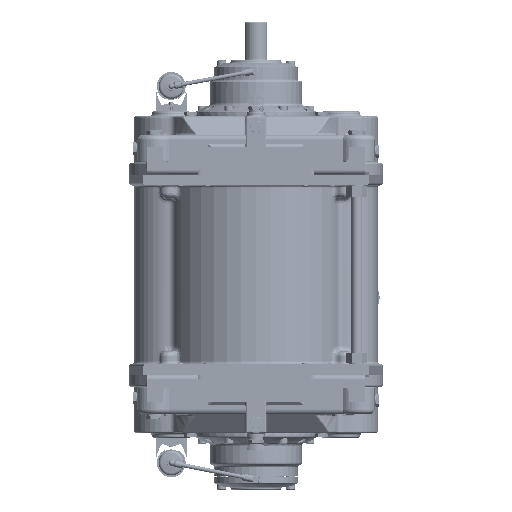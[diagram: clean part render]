
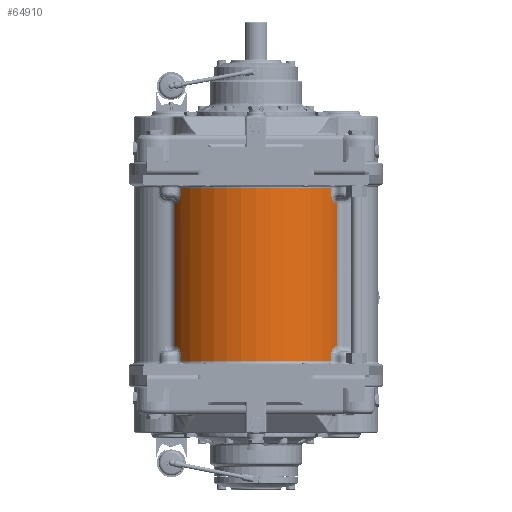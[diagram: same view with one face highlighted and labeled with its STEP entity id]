
A CAD part, front view. The second image highlights one B-rep face of the part: STEP entity #64910.
In plain terms, the highlighted cylindrical face has radius 180.5 mm (diameter 361 mm), a partial arc.
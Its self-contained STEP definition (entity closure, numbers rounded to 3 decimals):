
#2713=B_SPLINE_CURVE_WITH_KNOTS('',3,(#95038,#95039,#95040,#95041,#95042,
#95043,#95044),.UNSPECIFIED.,.F.,.F.,(4,1,1,1,4),(-3.142,-2.244,
-1.347,-0.898,0.),
 .UNSPECIFIED.);
#2714=B_SPLINE_CURVE_WITH_KNOTS('',3,(#95074,#95075,#95076,#95077,#95078,
#95079,#95080),.UNSPECIFIED.,.F.,.F.,(4,1,1,1,4),(-3.142,-2.244,
-1.347,-0.898,0.),.UNSPECIFIED.);
#2715=B_SPLINE_CURVE_WITH_KNOTS('',3,(#95089,#95090,#95091,#95092,#95093,
#95094,#95095),.UNSPECIFIED.,.F.,.F.,(4,1,1,1,4),(-3.142,-2.693,
-1.796,-0.898,0.),
 .UNSPECIFIED.);
#2716=B_SPLINE_CURVE_WITH_KNOTS('',3,(#95100,#95101,#95102,#95103,#95104,
#95105,#95106),.UNSPECIFIED.,.F.,.F.,(4,1,1,1,4),(-3.142,-2.244,
-1.347,-0.898,0.),
 .UNSPECIFIED.);
#5870=FACE_OUTER_BOUND('',#9716,.T.);
#9716=EDGE_LOOP('',(#42596,#42597,#42598,#42599,#42600,#42601,#42602,#42603,
#42604,#42605,#42606,#42607,#42608,#42609,#42610,#42611));
#13847=LINE('',#94994,#18087);
#13850=LINE('',#95063,#18090);
#13852=LINE('',#95072,#18092);
#13853=LINE('',#95083,#18093);
#13854=LINE('',#95087,#18094);
#13855=LINE('',#95107,#18095);
#18087=VECTOR('',#76712,10.);
#18090=VECTOR('',#76731,10.);
#18092=VECTOR('',#76739,10.);
#18093=VECTOR('',#76742,10.);
#18094=VECTOR('',#76745,10.);
#18095=VECTOR('',#76750,10.);
#22457=CIRCLE('',#69169,180.5);
#22475=CIRCLE('',#69195,180.5);
#22476=CIRCLE('',#69196,180.5);
#22477=CIRCLE('',#69197,180.5);
#22478=CIRCLE('',#69198,180.5);
#22479=CIRCLE('',#69199,180.5);
#25774=VERTEX_POINT('',#94881);
#25775=VERTEX_POINT('',#94883);
#25780=VERTEX_POINT('',#94991);
#25781=VERTEX_POINT('',#94993);
#25788=VERTEX_POINT('',#95059);
#25790=VERTEX_POINT('',#95062);
#25792=VERTEX_POINT('',#95068);
#25793=VERTEX_POINT('',#95069);
#25794=VERTEX_POINT('',#95071);
#25795=VERTEX_POINT('',#95073);
#25796=VERTEX_POINT('',#95081);
#25797=VERTEX_POINT('',#95084);
#25798=VERTEX_POINT('',#95086);
#25799=VERTEX_POINT('',#95088);
#25800=VERTEX_POINT('',#95097);
#25801=VERTEX_POINT('',#95099);
#32185=EDGE_CURVE('',#25774,#25775,#22457,.T.);
#32200=EDGE_CURVE('',#25780,#25781,#13847,.T.);
#32202=EDGE_CURVE('',#25781,#25774,#2713,.T.);
#32210=EDGE_CURVE('',#25788,#25790,#13850,.T.);
#32213=EDGE_CURVE('',#25792,#25793,#22475,.T.);
#32214=EDGE_CURVE('',#25794,#25792,#13852,.T.);
#32215=EDGE_CURVE('',#25795,#25794,#2714,.T.);
#32216=EDGE_CURVE('',#25796,#25795,#22476,.T.);
#32217=EDGE_CURVE('',#25796,#25775,#13853,.T.);
#32218=EDGE_CURVE('',#25797,#25780,#22477,.T.);
#32219=EDGE_CURVE('',#25798,#25797,#13854,.T.);
#32220=EDGE_CURVE('',#25799,#25798,#2715,.T.);
#32221=EDGE_CURVE('',#25790,#25799,#22478,.T.);
#32222=EDGE_CURVE('',#25800,#25788,#22479,.T.);
#32223=EDGE_CURVE('',#25801,#25800,#2716,.T.);
#32224=EDGE_CURVE('',#25793,#25801,#13855,.T.);
#42596=ORIENTED_EDGE('',*,*,#32213,.F.);
#42597=ORIENTED_EDGE('',*,*,#32214,.F.);
#42598=ORIENTED_EDGE('',*,*,#32215,.F.);
#42599=ORIENTED_EDGE('',*,*,#32216,.F.);
#42600=ORIENTED_EDGE('',*,*,#32217,.T.);
#42601=ORIENTED_EDGE('',*,*,#32185,.F.);
#42602=ORIENTED_EDGE('',*,*,#32202,.F.);
#42603=ORIENTED_EDGE('',*,*,#32200,.F.);
#42604=ORIENTED_EDGE('',*,*,#32218,.F.);
#42605=ORIENTED_EDGE('',*,*,#32219,.F.);
#42606=ORIENTED_EDGE('',*,*,#32220,.F.);
#42607=ORIENTED_EDGE('',*,*,#32221,.F.);
#42608=ORIENTED_EDGE('',*,*,#32210,.F.);
#42609=ORIENTED_EDGE('',*,*,#32222,.F.);
#42610=ORIENTED_EDGE('',*,*,#32223,.F.);
#42611=ORIENTED_EDGE('',*,*,#32224,.F.);
#59802=CYLINDRICAL_SURFACE('',#69194,180.5);
#64910=ADVANCED_FACE('',(#5870),#59802,.T.);
#69169=AXIS2_PLACEMENT_3D('',#94884,#76679,#76680);
#69194=AXIS2_PLACEMENT_3D('',#95067,#76735,#76736);
#69195=AXIS2_PLACEMENT_3D('',#95070,#76737,#76738);
#69196=AXIS2_PLACEMENT_3D('',#95082,#76740,#76741);
#69197=AXIS2_PLACEMENT_3D('',#95085,#76743,#76744);
#69198=AXIS2_PLACEMENT_3D('',#95096,#76746,#76747);
#69199=AXIS2_PLACEMENT_3D('',#95098,#76748,#76749);
#76679=DIRECTION('center_axis',(0.,0.,
1.));
#76680=DIRECTION('ref_axis',(0.872,-0.489,0.));
#76712=DIRECTION('',(0.,0.,-1.));
#76731=DIRECTION('',(0.,0.,1.));
#76735=DIRECTION('center_axis',(0.,0.,
1.));
#76736=DIRECTION('ref_axis',(-0.891,-0.454,0.));
#76737=DIRECTION('center_axis',(0.,0.,
-1.));
#76738=DIRECTION('ref_axis',(0.,-1.,0.));
#76739=DIRECTION('',(0.,0.,-1.));
#76740=DIRECTION('center_axis',(0.,0.,
-1.));
#76741=DIRECTION('ref_axis',(0.872,-0.489,0.));
#76742=DIRECTION('',(0.,0.,1.));
#76743=DIRECTION('center_axis',(0.,0.,
1.));
#76744=DIRECTION('ref_axis',(0.,-1.,0.));
#76745=DIRECTION('',(0.,0.,1.));
#76746=DIRECTION('center_axis',(0.,0.,
1.));
#76747=DIRECTION('ref_axis',(-0.872,-0.489,0.));
#76748=DIRECTION('center_axis',(0.,0.,
-1.));
#76749=DIRECTION('ref_axis',(-0.872,-0.489,0.));
#76750=DIRECTION('',(0.,0.,1.));
#94881=CARTESIAN_POINT('',(158.576,-86.221,142.));
#94883=CARTESIAN_POINT('',(160.817,-81.965,142.));
#94884=CARTESIAN_POINT('Origin',(0.,0.,
142.));
#94991=CARTESIAN_POINT('',(148.662,-102.371,172.));
#94993=CARTESIAN_POINT('',(148.662,-102.371,162.));
#94994=CARTESIAN_POINT('',(148.662,-102.371,0.));
#95038=CARTESIAN_POINT('Ctrl Pts',(148.662,-102.371,162.));
#95039=CARTESIAN_POINT('Ctrl Pts',(148.662,-102.371,159.007));
#95040=CARTESIAN_POINT('Ctrl Pts',(149.404,-101.308,153.024));
#95041=CARTESIAN_POINT('Ctrl Pts',(151.912,-97.529,147.031));
#95042=CARTESIAN_POINT('Ctrl Pts',(155.097,-92.393,143.027));
#95043=CARTESIAN_POINT('Ctrl Pts',(157.221,-88.712,142.));
#95044=CARTESIAN_POINT('Ctrl Pts',(158.576,-86.221,142.));
#95059=CARTESIAN_POINT('',(-160.817,-81.965,-142.));
#95062=CARTESIAN_POINT('',(-160.817,-81.965,142.));
#95063=CARTESIAN_POINT('',(-160.817,-81.965,0.));
#95067=CARTESIAN_POINT('Origin',(0.,0.,
0.));
#95068=CARTESIAN_POINT('',(148.662,-102.371,-172.));
#95069=CARTESIAN_POINT('',(-148.662,-102.371,-172.));
#95070=CARTESIAN_POINT('Origin',(0.,0.,
-172.));
#95071=CARTESIAN_POINT('',(148.662,-102.371,-162.));
#95072=CARTESIAN_POINT('',(148.662,-102.371,0.));
#95073=CARTESIAN_POINT('',(158.576,-86.221,-142.));
#95074=CARTESIAN_POINT('Ctrl Pts',(158.576,-86.221,-142.));
#95075=CARTESIAN_POINT('Ctrl Pts',(157.221,-88.712,-142.));
#95076=CARTESIAN_POINT('Ctrl Pts',(154.386,-93.625,-143.364));
#95077=CARTESIAN_POINT('Ctrl Pts',(151.329,-98.412,-148.148));
#95078=CARTESIAN_POINT('Ctrl Pts',(149.22,-101.57,-154.524));
#95079=CARTESIAN_POINT('Ctrl Pts',(148.662,-102.371,-159.007));
#95080=CARTESIAN_POINT('Ctrl Pts',(148.662,-102.371,-162.));
#95081=CARTESIAN_POINT('',(160.817,-81.965,-142.));
#95082=CARTESIAN_POINT('Origin',(0.,0.,
-142.));
#95083=CARTESIAN_POINT('',(160.817,-81.965,0.));
#95084=CARTESIAN_POINT('',(-148.662,-102.371,172.));
#95085=CARTESIAN_POINT('Origin',(0.,0.,
172.));
#95086=CARTESIAN_POINT('',(-148.662,-102.371,162.));
#95087=CARTESIAN_POINT('',(-148.662,-102.371,0.));
#95088=CARTESIAN_POINT('',(-158.576,-86.221,142.));
#95089=CARTESIAN_POINT('Ctrl Pts',(-158.576,-86.221,142.));
#95090=CARTESIAN_POINT('Ctrl Pts',(-157.898,-87.466,142.));
#95091=CARTESIAN_POINT('Ctrl Pts',(-155.823,-91.18,142.5));
#95092=CARTESIAN_POINT('Ctrl Pts',(-152.415,-96.776,
145.827));
#95093=CARTESIAN_POINT('Ctrl Pts',(-149.404,-101.307,
153.025));
#95094=CARTESIAN_POINT('Ctrl Pts',(-148.662,-102.371,
159.007));
#95095=CARTESIAN_POINT('Ctrl Pts',(-148.662,-102.371,
162.));
#95096=CARTESIAN_POINT('Origin',(0.,0.,
142.));
#95097=CARTESIAN_POINT('',(-158.576,-86.221,-142.));
#95098=CARTESIAN_POINT('Origin',(0.,0.,
-142.));
#95099=CARTESIAN_POINT('',(-148.662,-102.371,-162.));
#95100=CARTESIAN_POINT('Ctrl Pts',(-148.662,-102.371,-162.));
#95101=CARTESIAN_POINT('Ctrl Pts',(-148.662,-102.371,-159.007));
#95102=CARTESIAN_POINT('Ctrl Pts',(-149.404,-101.308,
-153.024));
#95103=CARTESIAN_POINT('Ctrl Pts',(-151.912,-97.529,
-147.031));
#95104=CARTESIAN_POINT('Ctrl Pts',(-155.097,-92.393,
-143.027));
#95105=CARTESIAN_POINT('Ctrl Pts',(-157.221,-88.712,
-142.));
#95106=CARTESIAN_POINT('Ctrl Pts',(-158.576,-86.221,
-142.));
#95107=CARTESIAN_POINT('',(-148.662,-102.371,0.));
